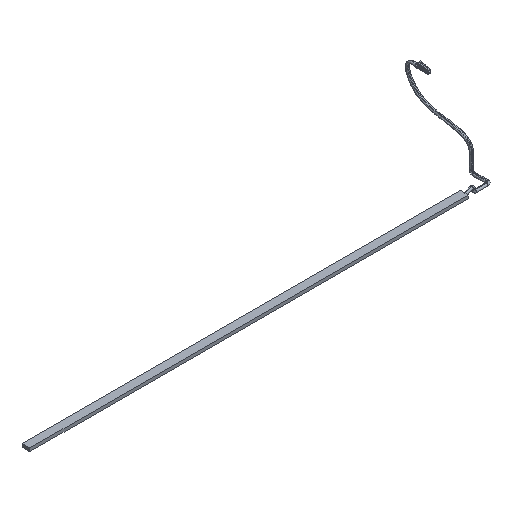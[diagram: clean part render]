
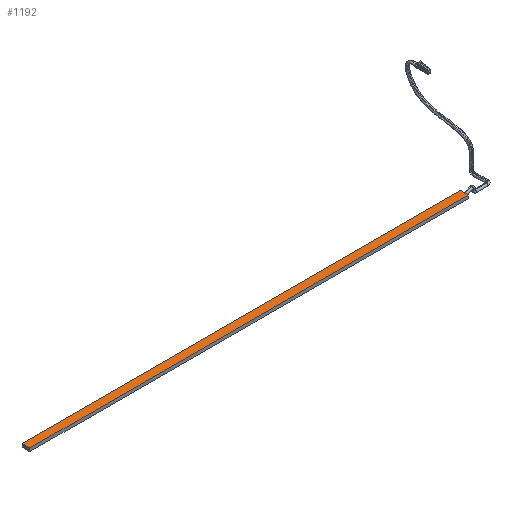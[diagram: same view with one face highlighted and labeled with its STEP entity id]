
A CAD part, isometric view. The second image highlights one B-rep face of the part: STEP entity #1192.
In plain terms, the highlighted planar face has unit normal (0, 0, 1).
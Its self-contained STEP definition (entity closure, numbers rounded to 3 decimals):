
#160 = LINE ( 'NONE', #3005, #2312 ) ;
#227 = EDGE_CURVE ( 'NONE', #2801, #2389, #3220, .T. ) ;
#377 = VERTEX_POINT ( 'NONE', #4453 ) ;
#444 = CARTESIAN_POINT ( 'NONE',  ( -550., -5., 2. ) ) ;
#448 = ORIENTED_EDGE ( 'NONE', *, *, #923, .F. ) ;
#681 = CARTESIAN_POINT ( 'NONE',  ( -550., 5., 2. ) ) ;
#923 = EDGE_CURVE ( 'NONE', #2801, #2222, #4599, .T. ) ;
#1071 = CARTESIAN_POINT ( 'NONE',  ( -550., -5., 2. ) ) ;
#1152 = DIRECTION ( 'NONE',  ( 0., -1., 0. ) ) ;
#1161 = LINE ( 'NONE', #444, #2826 ) ;
#1192 = ADVANCED_FACE ( 'NONE', ( #2070 ), #2491, .T. ) ;
#1252 = ORIENTED_EDGE ( 'NONE', *, *, #1289, .T. ) ;
#1289 = EDGE_CURVE ( 'NONE', #2389, #377, #1161, .T. ) ;
#1399 = DIRECTION ( 'NONE',  ( 1., 0., 0. ) ) ;
#1424 = CARTESIAN_POINT ( 'NONE',  ( -550., 5., 2. ) ) ;
#1488 = CARTESIAN_POINT ( 'NONE',  ( -550., -5., 2. ) ) ;
#1750 = DIRECTION ( 'NONE',  ( 1., 0., 0. ) ) ;
#2070 = FACE_OUTER_BOUND ( 'NONE', #2430, .T. ) ;
#2164 = EDGE_CURVE ( 'NONE', #2222, #377, #160, .T. ) ;
#2190 = DIRECTION ( 'NONE',  ( 0., -1., 0. ) ) ;
#2222 = VERTEX_POINT ( 'NONE', #4160 ) ;
#2312 = VECTOR ( 'NONE', #1152, 1000. ) ;
#2389 = VERTEX_POINT ( 'NONE', #4601 ) ;
#2427 = DIRECTION ( 'NONE',  ( 0., 0., 1. ) ) ;
#2430 = EDGE_LOOP ( 'NONE', ( #2494, #448, #2697, #1252 ) ) ;
#2491 = PLANE ( 'NONE',  #3131 ) ;
#2494 = ORIENTED_EDGE ( 'NONE', *, *, #2164, .F. ) ;
#2697 = ORIENTED_EDGE ( 'NONE', *, *, #227, .T. ) ;
#2801 = VERTEX_POINT ( 'NONE', #681 ) ;
#2821 = VECTOR ( 'NONE', #2190, 1000. ) ;
#2826 = VECTOR ( 'NONE', #3292, 1000. ) ;
#3005 = CARTESIAN_POINT ( 'NONE',  ( 0., -5., 2. ) ) ;
#3131 = AXIS2_PLACEMENT_3D ( 'NONE', #1071, #2427, #1750 ) ;
#3220 = LINE ( 'NONE', #1488, #2821 ) ;
#3292 = DIRECTION ( 'NONE',  ( 1., 0., 0. ) ) ;
#3354 = VECTOR ( 'NONE', #1399, 1000. ) ;
#4160 = CARTESIAN_POINT ( 'NONE',  ( 0., 5., 2. ) ) ;
#4453 = CARTESIAN_POINT ( 'NONE',  ( 0., -5., 2. ) ) ;
#4599 = LINE ( 'NONE', #1424, #3354 ) ;
#4601 = CARTESIAN_POINT ( 'NONE',  ( -550., -5., 2. ) ) ;
